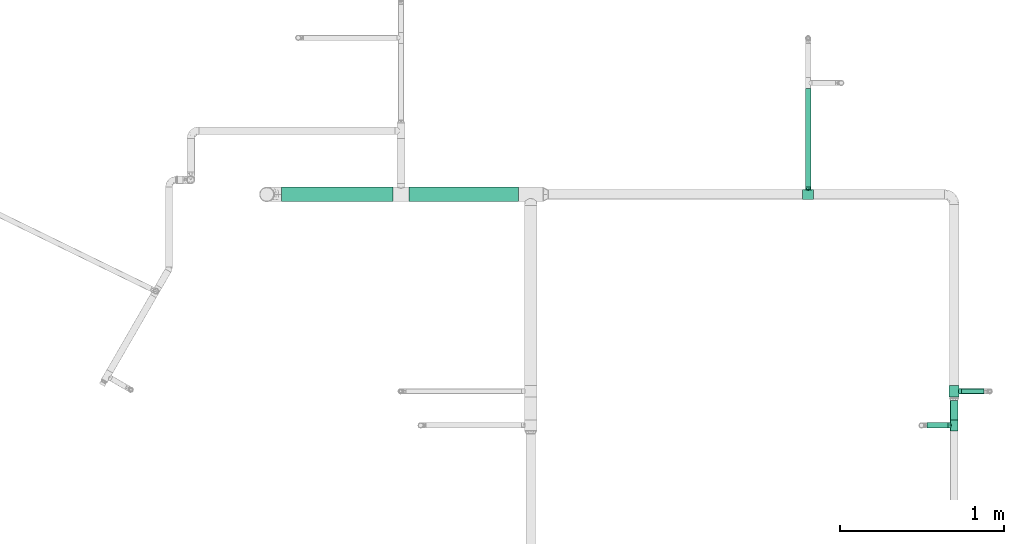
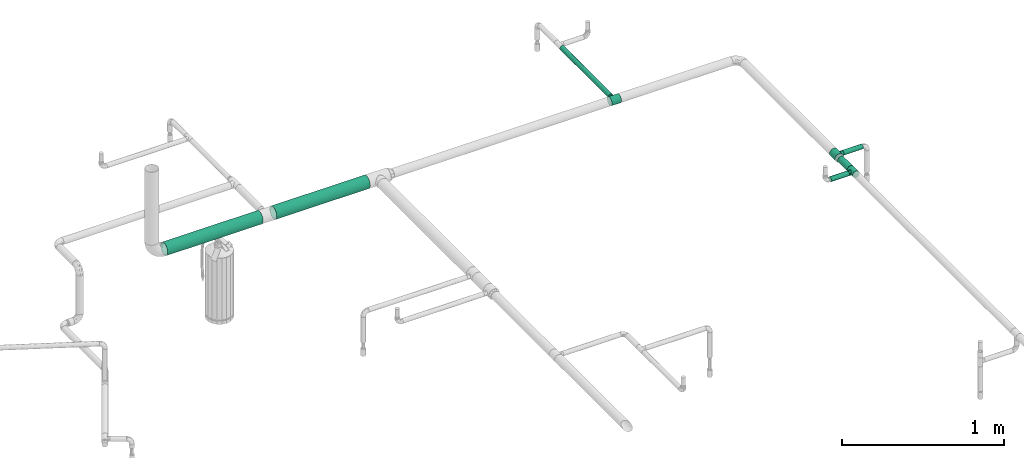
# One storey, part 8 of 43: 6 flow segments, 3 flow fittings.
"""IFC2X3 building model written with IfcOpenShell, lengths in millimetres."""

from ifc_helpers import new_model, entity, si_unit, converted_unit, derived_unit, direction, frame, origin_with_axes, origin_2d_with_axis, place, context, subcontext, project, spatial, hollow_circle, extrude, open_shell, surface_model, source, transform, mapped, type_object, element, save


model = new_model("IFC2X3")

# Units and contexts
model_context = context("Model", 3, precision=0.01, world=frame((0.0, 4.29681676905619e-09, 0.0)), true_north=direction((4.01073788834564e-13, 1.0)))
plan_context = context("Plan", 3, precision=0.01, world=frame((0.0, 4.29681676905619e-09, 0.0)), true_north=direction((4.01073788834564e-13, 1.0)))
body_context = subcontext(model_context, "Body", "Model", "MODEL_VIEW")
ifc_project = project(units=[converted_unit("PLANEANGLEUNIT", "DEGREE", entity("IfcPositiveLengthMeasure", 0.0174532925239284), si_unit("PLANEANGLEUNIT", "RADIAN"), dimensions=[0, 0, 0, 0, 0, 0, 0]), si_unit("AREAUNIT", "SQUARE_METRE"), si_unit("LENGTHUNIT", "METRE", prefix="MILLI"), si_unit("MASSUNIT", "GRAM", prefix="KILO"), si_unit("POWERUNIT", "WATT"), si_unit("PRESSUREUNIT", "PASCAL"), si_unit("FORCEUNIT", "NEWTON", prefix="KILO"), si_unit("ELECTRICVOLTAGEUNIT", "VOLT"), si_unit("ELECTRICCURRENTUNIT", "AMPERE"), si_unit("THERMODYNAMICTEMPERATUREUNIT", "DEGREE_CELSIUS"), si_unit("TIMEUNIT", "SECOND"), si_unit("VOLUMEUNIT", "CUBIC_METRE"), derived_unit("LINEARVELOCITYUNIT", [(si_unit("LENGTHUNIT", "METRE"), 1), (si_unit("TIMEUNIT", "SECOND"), -1)]), derived_unit("VOLUMETRICFLOWRATEUNIT", [(si_unit("VOLUMEUNIT", "CUBIC_METRE"), 1), (si_unit("TIMEUNIT", "SECOND"), -1)]), derived_unit("THERMALTRANSMITTANCEUNIT", [(si_unit("POWERUNIT", "WATT"), 1), (si_unit("THERMODYNAMICTEMPERATUREUNIT", "KELVIN"), -1), (si_unit("AREAUNIT", "SQUARE_METRE"), -1)]), derived_unit("SOUNDPRESSUREUNIT", [(si_unit("PRESSUREUNIT", "PASCAL"), 1)])], contexts=[model_context, plan_context])

# Site, building, storey
site_placement = place(None, frame((0.0, -4.29681676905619e-09, 0.0), z_axis=(0.0, 0.0, 1.0), x_axis=(1.0, 0.0, 0.0)))
site = spatial("IfcSite", under=ifc_project, at=site_placement, CompositionType="ELEMENT")
building_placement = place(site_placement, frame((0.0, 4.29681676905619e-09, 0.0), z_axis=(0.0, 0.0, 1.0), x_axis=(1.0, 0.0, 0.0)))
building = spatial("IfcBuilding", under=site, at=building_placement, Name="mc-building", CompositionType="ELEMENT")
storey_placement = place(building_placement, frame((0.0, 0.0, 210900.0), z_axis=(0.0, 0.0, 1.0), x_axis=(1.0, 0.0, 0.0)))
storey = spatial("IfcBuildingStorey", under=building, at=storey_placement, Name="Nivå F", CompositionType="ELEMENT", Elevation=210900.0)

# Flow fittings
pipe_fitting_type = type_object("IfcPipeFittingType", Name="magi_pipe_fe_tee_centric_90_NOR", PredefinedType="JUNCTION")
shared_shape_1 = source(origin_with_axes(), body_context, "Body", "SurfaceModel", [
    surface_model("IfcShellBasedSurfaceModel", [(-33.8, 15.1, -26.15397), (-33.8, 7.81634, -29.17096), (-33.8, 0.0, -30.2), (-33.8, 29.17096, -7.81634), (-33.8, 26.15397, -15.1), (-33.8, 21.35462, -21.35462), (-33.8, 30.2, 0.0), (-33.8, -30.2, 0.0), (-33.8, -15.1, -26.15397), (-33.8, -21.35462, -21.35462), (-33.8, -7.81634, -29.17096), (-33.8, -26.15397, -15.1), (-33.8, -29.17096, -7.81634), (-33.8, 26.15397, 15.1), (-33.8, 29.17096, 7.81634), (-33.8, 15.1, 26.15397), (-33.8, -21.35462, 21.35462), (-33.8, 21.35462, 21.35462), (-33.8, 7.81634, 29.17096), (-33.8, -29.17096, 7.81634), (-33.8, -26.15397, 15.1), (-33.8, -7.81634, 29.17096), (-33.8, 0.0, 30.2), (-33.8, -15.1, 26.15397), (33.8, 29.17096, -7.81634), (33.8, 0.0, -30.2), (33.8, 7.81634, -29.17096), (33.8, 21.35462, -21.35462), (33.8, 15.1, -26.15397), (33.8, 26.15397, -15.1), (33.8, -30.2, 0.0), (33.8, -7.81634, -29.17096), (33.8, -21.35462, -21.35462), (33.8, -15.1, -26.15397), (33.8, -29.17096, -7.81634), (33.8, -26.15397, -15.1), (33.8, 30.2, 0.0), (33.8, 29.17096, 7.81634), (33.8, 26.15397, 15.1), (33.8, -29.17096, 7.81634), (33.8, 15.1, 26.15397), (33.8, 7.81634, 29.17096), (33.8, 21.35462, 21.35462), (33.8, -21.35462, 21.35462), (33.8, -26.15397, 15.1), (33.8, -15.1, 26.15397), (33.8, 0.0, 30.2), (33.8, -7.81634, 29.17096), (33.8, -29.68548, 3.90817), (15.846, -29.62306, 5.87488), (16.373, -29.91153, 2.93744), (12.91037, -28.16217, 10.90561), (2.99213, -25.2068, 16.63301), (16.9, -30.2, 0.0), (33.8, -27.66246, 11.45817), (8.50854, -26.43531, 14.60187), (-8.51006, -26.43579, 14.60099), (-33.8, -27.66246, 11.45817), (-12.91447, -28.16405, 10.90075), (-15.84655, -29.62335, 5.87341), (-33.8, -29.68548, 3.90817), (-16.37327, -29.91168, 2.93671), (-16.9, -30.2, 0.0), (-2.99705, -25.20739, 16.63213), (2.99213, -25.2068, -16.63301), (-16.37327, -29.91168, -2.93671), (8.50854, -26.43531, -14.60187), (33.8, -27.66246, -11.45817), (16.373, -29.91153, -2.93744), (-33.8, -29.68548, -3.90817), (-15.84655, -29.62335, -5.87341), (15.846, -29.62306, -5.87488), (12.91037, -28.16217, -10.90561), (33.8, -29.68548, -3.90817), (-2.99705, -25.20739, -16.63213), (-8.51006, -26.43579, -14.60099), (-12.91447, -28.16405, -10.90075), (-33.8, -27.66246, -11.45817), (4.37404, -45.3, -16.32415), (-16.9, -45.3, 0.0), (0.0, -45.3, -16.9), (14.63583, -45.3, -8.45), (8.45, -45.3, -14.63583), (16.32415, -45.3, -4.37404), (11.9501, -45.3, -11.9501), (-11.9501, -45.3, -11.9501), (-8.45, -45.3, -14.63583), (-4.37404, -45.3, -16.32415), (-14.63583, -45.3, -8.45), (-16.32415, -45.3, -4.37404), (16.9, -45.3, 0.0), (8.45, -45.3, 14.63583), (16.32415, -45.3, 4.37404), (14.63583, -45.3, 8.45), (-8.45, -45.3, 14.63583), (11.9501, -45.3, 11.9501), (4.37404, -45.3, 16.32415), (-16.32415, -45.3, 4.37404), (-11.9501, -45.3, 11.9501), (-14.63583, -45.3, 8.45), (0.0, -45.3, 16.9), (-4.37404, -45.3, 16.32415), (-5.75355, -25.82159, 15.61656), (-0.00246, -25.20709, 16.63257), (5.75034, -25.82105, 15.61744), (5.75034, -25.82105, -15.61744), (-0.00246, -25.20709, -16.63257), (-5.75355, -25.82159, -15.61656)], [open_shell([[[0, 1, 2]], [[3, 0, 2]], [[0, 3, 4]], [[5, 0, 4]], [[6, 2, 7]], [[8, 9, 10]], [[9, 2, 10]], [[11, 12, 9]], [[7, 9, 12]], [[9, 7, 2]], [[6, 3, 2]], [[13, 14, 6]], [[7, 15, 13]], [[7, 16, 15]], [[17, 13, 15]], [[18, 15, 16]], [[19, 20, 7]], [[7, 20, 16]], [[21, 22, 23]], [[16, 23, 22]], [[16, 22, 18]], [[7, 13, 6]], [[24, 25, 26]], [[27, 26, 28]], [[29, 24, 26]], [[29, 26, 27]], [[25, 24, 30]], [[31, 32, 33]], [[32, 31, 34]], [[32, 34, 35]], [[34, 31, 30]], [[31, 25, 30]], [[24, 36, 30]], [[36, 37, 38]], [[39, 36, 38]], [[40, 41, 38]], [[40, 38, 42]], [[43, 38, 41]], [[39, 43, 44]], [[39, 38, 43]], [[45, 46, 47]], [[46, 45, 43]], [[41, 46, 43]], [[36, 39, 30]], [[48, 39, 49]], [[30, 48, 50]], [[39, 51, 49]], [[44, 43, 52]], [[30, 50, 53]], [[51, 54, 55]], [[52, 55, 44]], [[48, 49, 50]], [[43, 16, 52]], [[55, 54, 44]], [[56, 57, 58]], [[59, 60, 61]], [[62, 61, 7]], [[59, 58, 19]], [[56, 63, 20]], [[51, 39, 54]], [[20, 57, 56]], [[20, 63, 16]], [[58, 57, 19]], [[63, 52, 16]], [[7, 61, 60]], [[59, 19, 60]], [[43, 23, 16]], [[22, 47, 46]], [[21, 45, 47]], [[18, 46, 41]], [[38, 37, 14]], [[17, 40, 42]], [[13, 42, 38]], [[41, 40, 15]], [[6, 37, 36]], [[23, 45, 21]], [[21, 47, 22]], [[18, 22, 46]], [[41, 15, 18]], [[15, 40, 17]], [[13, 17, 42]], [[14, 13, 38]], [[37, 6, 14]], [[45, 23, 43]], [[4, 24, 29]], [[3, 36, 24]], [[5, 29, 27]], [[25, 31, 10]], [[1, 28, 26]], [[2, 26, 25]], [[27, 28, 0]], [[8, 31, 33]], [[6, 36, 3]], [[3, 24, 4]], [[5, 4, 29]], [[27, 0, 5]], [[0, 28, 1]], [[2, 1, 26]], [[10, 2, 25]], [[31, 8, 10]], [[33, 9, 8]], [[32, 35, 64]], [[7, 65, 62]], [[66, 64, 35]], [[67, 66, 35]], [[32, 64, 9]], [[53, 68, 30]], [[69, 70, 65]], [[71, 72, 34]], [[71, 73, 68]], [[66, 67, 72]], [[34, 72, 67]], [[74, 75, 11]], [[76, 12, 77]], [[11, 9, 74]], [[76, 77, 75]], [[74, 9, 64]], [[76, 70, 12]], [[71, 34, 73]], [[70, 69, 12]], [[65, 7, 69]], [[30, 68, 73]], [[77, 11, 75]], [[32, 9, 33]], [[78, 79, 80]], [[81, 78, 82]], [[81, 83, 78]], [[81, 82, 84]], [[79, 78, 83]], [[80, 85, 86]], [[86, 87, 80]], [[88, 79, 89]], [[85, 80, 88]], [[79, 88, 80]], [[83, 90, 79]], [[91, 90, 92]], [[91, 92, 93]], [[94, 79, 91]], [[91, 93, 95]], [[94, 91, 96]], [[97, 98, 99]], [[98, 97, 94]], [[94, 100, 101]], [[97, 79, 94]], [[96, 100, 94]], [[91, 79, 90]], [[97, 61, 79]], [[58, 99, 98]], [[97, 99, 59]], [[98, 94, 56]], [[61, 62, 79]], [[59, 99, 58]], [[101, 63, 102]], [[56, 58, 98]], [[100, 52, 103]], [[91, 104, 96]], [[100, 96, 52]], [[50, 49, 92]], [[50, 90, 53]], [[104, 91, 55]], [[102, 94, 101]], [[102, 56, 94]], [[100, 63, 101]], [[97, 59, 61]], [[55, 91, 95]], [[95, 51, 55]], [[52, 96, 104]], [[92, 49, 93]], [[90, 50, 92]], [[93, 49, 51]], [[93, 51, 95]], [[103, 63, 100]], [[83, 68, 90]], [[72, 81, 84]], [[83, 81, 71]], [[84, 82, 66]], [[68, 53, 90]], [[71, 81, 72]], [[78, 64, 105]], [[66, 72, 84]], [[80, 74, 106]], [[86, 107, 87]], [[65, 70, 89]], [[105, 82, 78]], [[105, 66, 82]], [[75, 86, 85]], [[83, 71, 68]], [[70, 88, 89]], [[65, 79, 62]], [[85, 88, 76]], [[80, 64, 78]], [[87, 107, 74]], [[74, 80, 87]], [[75, 107, 86]], [[75, 85, 76]], [[76, 88, 70]], [[79, 65, 89]], [[106, 64, 80]]])]),
])
for number, where, z_axis, x_axis, name in (
    (1, (609473.7578, 697236.30413, 2660.0), (0.0, 0.0, 1.0), (-1.0, 0.0, 0.0), "magi_pipe_fe_tee_centric_90_NOR"),
    (2, (610366.6122, 696033.67925, 2660.0), (0.0, 0.0, 1.0), (0.0, 1.0, 0.0), "magi_pipe_fe_tee_centric_90_NOR"),
):
    element("IfcFlowFitting", number, at=place(storey_placement, frame(where, z_axis=z_axis, x_axis=x_axis)), inside=storey, type_object=pipe_fitting_type, Name=name, context=body_context, shape_type="MappedRepresentation", body=[
        mapped(shared_shape_1, transform((0.0, 0.0, 0.0), scale=1.0)),
    ])
shared_shape_2 = source(origin_with_axes(), body_context, "Body", "SurfaceModel", [
    surface_model("IfcShellBasedSurfaceModel", [(-33.8, 0.0, -24.2), (-33.8, -6.26342, -23.37541), (-33.8, 6.26342, -23.37541), (-33.8, 12.1, -20.95781), (-33.8, 17.11198, -17.11198), (-33.8, 20.95781, -12.1), (-33.8, -23.37541, -6.26342), (-33.8, 23.37541, -6.26342), (-33.8, -17.11198, -17.11198), (-33.8, -20.95781, -12.1), (-33.8, -12.1, -20.95781), (-33.8, -24.2, 0.0), (-33.8, -23.37541, 6.26342), (-33.8, 20.95781, 12.1), (-33.8, 23.37541, 6.26342), (-33.8, 24.2, 0.0), (-33.8, 12.1, 20.95781), (-33.8, 17.11198, 17.11198), (-33.8, -17.11198, 17.11198), (-33.8, 6.26342, 23.37541), (-33.8, -20.95781, 12.1), (-33.8, -12.1, 20.95781), (-33.8, -6.26342, 23.37541), (-33.8, 0.0, 24.2), (33.8, 6.26342, -23.37541), (33.8, -6.26342, -23.37541), (33.8, 0.0, -24.2), (33.8, 17.11198, -17.11198), (33.8, 12.1, -20.95781), (33.8, -23.37541, -6.26342), (33.8, 20.95781, -12.1), (33.8, 23.37541, -6.26342), (33.8, -17.11198, -17.11198), (33.8, -12.1, -20.95781), (33.8, -20.95781, -12.1), (33.8, -24.2, 0.0), (33.8, 24.2, 0.0), (33.8, 23.37541, 6.26342), (33.8, 20.95781, 12.1), (33.8, -23.37541, 6.26342), (33.8, -17.11198, 17.11198), (33.8, 12.1, 20.95781), (33.8, 17.11198, 17.11198), (33.8, 6.26342, 23.37541), (33.8, -20.95781, 12.1), (33.8, -12.1, 20.95781), (33.8, 0.0, 24.2), (33.8, -6.26342, 23.37541), (15.81824, -23.45734, 5.94922), (16.9, -24.2, 0.0), (12.87025, -21.57947, 10.95293), (33.8, -19.0349, 14.60599), (8.52813, -19.30697, 14.59044), (3.03527, -17.5853, 16.6252), (-3.04044, -17.58619, 16.62425), (-8.52961, -19.30762, 14.58958), (-33.8, -19.0349, 14.60599), (-16.9, -24.2, 0.0), (-15.81885, -23.45775, 5.9476), (-12.87368, -21.58151, 10.9489), (3.03527, -17.5853, -16.6252), (33.8, -19.0349, -14.60599), (8.52813, -19.30697, -14.59044), (-8.52961, -19.30762, -14.58958), (-33.8, -19.0349, -14.60599), (12.87025, -21.57947, -10.95293), (-3.04044, -17.58619, -16.62425), (15.81824, -23.45734, -5.94922), (-12.87368, -21.58151, -10.9489), (-15.81885, -23.45775, -5.9476), (4.37404, -36.3, -16.32415), (-16.9, -36.3, 0.0), (0.0, -36.3, -16.9), (14.63583, -36.3, -8.45), (8.45, -36.3, -14.63583), (16.32415, -36.3, -4.37404), (11.9501, -36.3, -11.9501), (-11.9501, -36.3, -11.9501), (-8.45, -36.3, -14.63583), (-4.37404, -36.3, -16.32415), (-14.63583, -36.3, -8.45), (-16.32415, -36.3, -4.37404), (16.9, -36.3, 0.0), (8.45, -36.3, 14.63583), (16.32415, -36.3, 4.37404), (14.63583, -36.3, 8.45), (-8.45, -36.3, 14.63583), (11.9501, -36.3, 11.9501), (4.37404, -36.3, 16.32415), (-16.32415, -36.3, 4.37404), (-11.9501, -36.3, 11.9501), (-14.63583, -36.3, 8.45), (0.0, -36.3, 16.9), (-4.37404, -36.3, 16.32415), (-16.35943, -23.82888, 2.9738), (16.35912, -23.82867, 2.97461), (-0.00259, -17.58575, 16.62472), (16.35912, -23.82867, -2.97461), (-0.00259, -17.58575, -16.62472), (-16.35943, -23.82888, -2.9738)], [open_shell([[[0, 1, 2]], [[3, 2, 4]], [[5, 2, 6]], [[4, 2, 5]], [[7, 5, 6]], [[8, 9, 10]], [[1, 10, 9]], [[1, 9, 2]], [[9, 6, 2]], [[6, 11, 7]], [[11, 12, 7]], [[13, 14, 15]], [[13, 15, 12]], [[16, 17, 18]], [[12, 17, 13]], [[19, 16, 18]], [[20, 18, 12]], [[18, 17, 12]], [[21, 22, 18]], [[23, 18, 22]], [[18, 23, 19]], [[7, 12, 15]], [[24, 25, 26]], [[27, 24, 28]], [[29, 24, 30]], [[30, 24, 27]], [[29, 30, 31]], [[25, 32, 33]], [[32, 25, 34]], [[24, 34, 25]], [[24, 29, 34]], [[31, 35, 29]], [[31, 36, 35]], [[36, 37, 38]], [[39, 36, 38]], [[40, 38, 41]], [[41, 38, 42]], [[40, 41, 43]], [[39, 40, 44]], [[39, 38, 40]], [[45, 46, 47]], [[46, 45, 40]], [[43, 46, 40]], [[36, 39, 35]], [[35, 39, 48]], [[48, 49, 35]], [[39, 50, 48]], [[51, 40, 52]], [[52, 50, 44]], [[53, 52, 40]], [[54, 53, 21]], [[44, 50, 39]], [[55, 18, 56]], [[57, 58, 11]], [[12, 11, 58]], [[58, 59, 12]], [[55, 54, 18]], [[55, 20, 59]], [[20, 55, 56]], [[59, 20, 12]], [[18, 54, 21]], [[52, 44, 51]], [[53, 40, 45]], [[23, 47, 46]], [[22, 45, 47]], [[19, 46, 43]], [[38, 37, 14]], [[17, 41, 42]], [[13, 42, 38]], [[43, 41, 16]], [[15, 37, 36]], [[21, 45, 22]], [[22, 47, 23]], [[19, 23, 46]], [[43, 16, 19]], [[16, 41, 17]], [[13, 17, 42]], [[14, 13, 38]], [[37, 15, 14]], [[45, 21, 53]], [[5, 31, 30]], [[7, 36, 31]], [[4, 30, 27]], [[26, 25, 1]], [[2, 28, 24]], [[0, 24, 26]], [[27, 28, 3]], [[10, 25, 33]], [[15, 36, 7]], [[7, 31, 5]], [[4, 5, 30]], [[27, 3, 4]], [[3, 28, 2]], [[0, 2, 24]], [[1, 0, 26]], [[25, 10, 1]], [[33, 60, 10]], [[61, 34, 62]], [[63, 9, 64]], [[62, 60, 32]], [[34, 65, 62]], [[66, 10, 60]], [[29, 35, 67]], [[67, 65, 29]], [[49, 67, 35]], [[29, 65, 34]], [[66, 63, 8]], [[62, 32, 61]], [[64, 8, 63]], [[63, 68, 9]], [[8, 10, 66]], [[68, 69, 6]], [[69, 11, 6]], [[11, 69, 57]], [[68, 6, 9]], [[60, 33, 32]], [[70, 71, 72]], [[73, 70, 74]], [[73, 75, 70]], [[73, 74, 76]], [[71, 70, 75]], [[72, 77, 78]], [[78, 79, 72]], [[80, 71, 81]], [[77, 72, 80]], [[71, 80, 72]], [[75, 82, 71]], [[83, 82, 84]], [[83, 84, 85]], [[86, 71, 83]], [[83, 85, 87]], [[86, 83, 88]], [[89, 90, 91]], [[90, 89, 86]], [[86, 92, 93]], [[89, 71, 86]], [[88, 92, 86]], [[83, 71, 82]], [[89, 94, 71]], [[59, 91, 90]], [[89, 91, 58]], [[90, 86, 55]], [[89, 58, 94]], [[94, 57, 71]], [[58, 91, 59]], [[95, 48, 84]], [[55, 93, 54]], [[55, 59, 90]], [[92, 53, 96]], [[55, 86, 93]], [[53, 92, 88]], [[83, 52, 88]], [[87, 85, 50]], [[87, 52, 83]], [[48, 85, 84]], [[87, 50, 52]], [[52, 53, 88]], [[82, 95, 84]], [[48, 50, 85]], [[95, 82, 49]], [[92, 54, 93]], [[96, 54, 92]], [[75, 97, 82]], [[65, 73, 76]], [[75, 73, 67]], [[76, 74, 62]], [[97, 49, 82]], [[67, 73, 65]], [[62, 70, 60]], [[62, 65, 76]], [[72, 66, 98]], [[62, 74, 70]], [[99, 71, 57]], [[99, 69, 81]], [[75, 67, 97]], [[79, 66, 72]], [[69, 80, 81]], [[77, 80, 68]], [[72, 60, 70]], [[79, 63, 66]], [[63, 79, 78]], [[78, 77, 63]], [[63, 77, 68]], [[68, 80, 69]], [[71, 99, 81]], [[98, 60, 72]]])]),
])
flow_fitting_placement = place(storey_placement, frame((610366.6122, 695825.22914, 2660.0), z_axis=(0.0, 0.0, -1.0), x_axis=(0.0, 1.0, 0.0)))
element("IfcFlowFitting", 3, at=flow_fitting_placement, inside=storey, type_object=pipe_fitting_type, Name="magi_pipe_fe_tee_centric_90_NOR", context=body_context, shape_type="MappedRepresentation", body=[
    mapped(shared_shape_2, transform((0.0, 0.0, 0.0), scale=1.0)),
])

# Flow segments
pipe_segment_type = type_object("IfcPipeSegmentType", Name="Stålrør normaltykke", PredefinedType="RIGIDSEGMENT")
shared_shape_3 = source(origin_with_axes(), body_context, "Body", "SweptSolid", [
    extrude(hollow_circle(Radius=16.9, WallThickness=2.0, at=origin_2d_with_axis()), frame((0.0, 0.0, 0.0), z_axis=(1.0, 0.0, 0.0), x_axis=(0.0, 1.0, 0.0)), (0.0, 0.0, 1.0), 138.3),
])
flow_segment_1_placement = place(storey_placement, frame((610411.9122, 696033.67925, 2660.0), z_axis=(0.0, 0.0, 1.0), x_axis=(1.0, 0.0, 0.0)))
element("IfcFlowSegment", 4, at=flow_segment_1_placement, inside=storey, type_object=pipe_segment_type, Name="Stålrør normaltykke", context=body_context, shape_type="MappedRepresentation", body=[
    mapped(shared_shape_3, transform((0.0, 0.0, 0.0), scale=1.0)),
])
shared_shape_4 = source(origin_with_axes(), body_context, "Body", "SweptSolid", [
    extrude(hollow_circle(Radius=44.5, WallThickness=2.0, at=origin_2d_with_axis()), frame((0.0, 0.0, 0.0), z_axis=(1.0, 0.0, 0.0), x_axis=(0.0, 1.0, 0.0)), (0.0, 0.0, 1.0), 682.5),
])
flow_segment_2_placement = place(storey_placement, frame((606255.6122, 697236.30413, 2660.0), z_axis=(0.0, 0.0, 1.0), x_axis=(1.0, 0.0, 0.0)))
element("IfcFlowSegment", 5, at=flow_segment_2_placement, inside=storey, type_object=pipe_segment_type, Name="Stålrør normaltykke", context=body_context, shape_type="MappedRepresentation", body=[
    mapped(shared_shape_4, transform((0.0, 0.0, 0.0), scale=1.0)),
])
shared_shape_5 = source(origin_with_axes(), body_context, "Body", "SweptSolid", [
    extrude(hollow_circle(Radius=44.5, WallThickness=2.0, at=origin_2d_with_axis()), frame((0.0, 0.0, 0.0), z_axis=(1.0, 0.0, 0.0), x_axis=(0.0, 1.0, 0.0)), (0.0, 0.0, 1.0), 668.5),
])
flow_segment_3_placement = place(storey_placement, frame((607034.88955, 697236.30413, 2660.0), z_axis=(0.0, 0.0, 1.0), x_axis=(1.0, 0.0, 0.0)))
element("IfcFlowSegment", 6, at=flow_segment_3_placement, inside=storey, type_object=pipe_segment_type, Name="Stålrør normaltykke", context=body_context, shape_type="MappedRepresentation", body=[
    mapped(shared_shape_5, transform((0.0, 0.0, 0.0), scale=1.0)),
])
shared_shape_6 = source(origin_with_axes(), body_context, "Body", "SweptSolid", [
    extrude(hollow_circle(Radius=24.1, WallThickness=2.0, at=origin_2d_with_axis()), frame((0.0, 0.0, 0.0), z_axis=(1.0, 0.0, 0.0), x_axis=(0.0, 1.0, 0.0)), (0.0, 0.0, 1.0), 118.9),
])
flow_segment_4_placement = place(storey_placement, frame((610366.6122, 695977.87925, 2660.0), z_axis=(0.0, 0.0, 1.0), x_axis=(0.0, -1.0, 0.0)))
element("IfcFlowSegment", 7, at=flow_segment_4_placement, inside=storey, type_object=pipe_segment_type, Name="Stålrør normaltykke", context=body_context, shape_type="MappedRepresentation", body=[
    mapped(shared_shape_6, transform((0.0, 0.0, 0.0), scale=1.0)),
])
shared_shape_7 = source(origin_with_axes(), body_context, "Body", "SweptSolid", [
    extrude(hollow_circle(Radius=16.9, WallThickness=2.0, at=origin_2d_with_axis()), frame((0.0, 0.0, 0.0), z_axis=(1.0, 0.0, 0.0), x_axis=(0.0, 1.0, 0.0)), (0.0, 0.0, 1.0), 129.6),
])
flow_segment_5_placement = place(storey_placement, frame((610200.69343, 695825.22914, 2660.0), z_axis=(0.0, 0.0, 1.0), x_axis=(1.0, 0.0, 0.0)))
element("IfcFlowSegment", 8, at=flow_segment_5_placement, inside=storey, type_object=pipe_segment_type, Name="Stålrør normaltykke", context=body_context, shape_type="MappedRepresentation", body=[
    mapped(shared_shape_7, transform((0.0, 0.0, 0.0), scale=1.0)),
])
shared_shape_8 = source(origin_with_axes(), body_context, "Body", "SweptSolid", [
    extrude(hollow_circle(Radius=16.9, WallThickness=2.0, at=origin_2d_with_axis()), frame((0.0, 0.0, 0.0), z_axis=(1.0, 0.0, 0.0), x_axis=(0.0, 1.0, 0.0)), (0.0, 0.0, 1.0), 602.1),
])
flow_segment_6_placement = place(storey_placement, frame((609473.7578, 697281.60413, 2660.0), z_axis=(0.0, 0.0, 1.0), x_axis=(0.0, 1.0, 0.0)))
element("IfcFlowSegment", 9, at=flow_segment_6_placement, inside=storey, type_object=pipe_segment_type, Name="Stålrør normaltykke", context=body_context, shape_type="MappedRepresentation", body=[
    mapped(shared_shape_8, transform((0.0, 0.0, 0.0), scale=1.0)),
])

save(model, "model.ifc")
